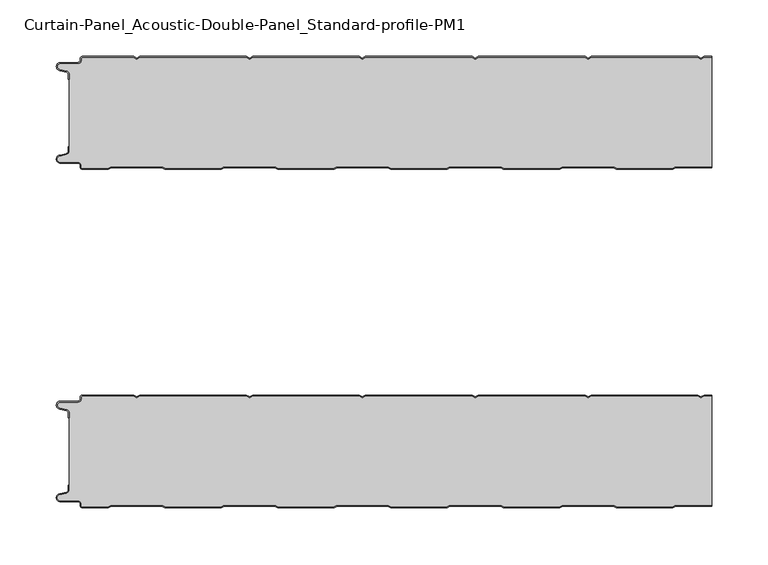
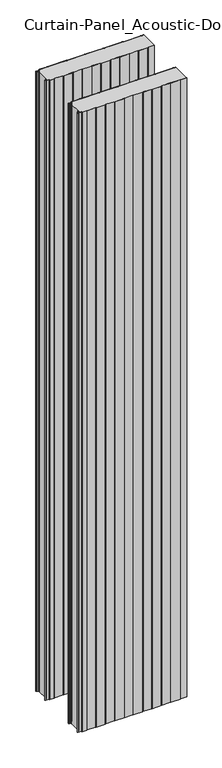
"""IFC4 building model written with IfcOpenShell, lengths in millimetres: plate geometry, Curtain-Panel_Acoustic-Double-Panel_Standard-profile-PM1 : ACH_Acoustic-Double-Panel_PM1_100-200-100."""

from ifc_helpers import new_model, si_unit, point, frame_2d, origin, origin_with_axes, place, context, project, spatial, polyline, circle_curve, trimmed, segment, composite_curve, outline, extrude, source, transform, mapped, element, save


def curtain_panel_acoustic_double_panel_standard_profile_pm1_802b12fa(model_context):
    return source(origin(), model_context, "Body", "SweptSolid", [
        extrude(outline(composite_curve([segment(trimmed(circle_curve(frame_2d((-287.0, -315.878557)), 2.0), [point((-285.0, -315.878557))], [point((-286.5500978, -313.9298169))], True, "CARTESIAN"), True, "CONTINUOUS"), segment(polyline([(-286.5500978, -313.9298169), (-292.7098239, -312.507732)]), True, "CONTINUOUS"), segment(trimmed(circle_curve(frame_2d((-291.9, -309.0)), 3.6), [point((-292.7098239, -312.507732))], [point((-291.9, -305.4))], False, "CARTESIAN"), True, "CONTINUOUS"), segment(polyline([(-291.9, -305.4), (-276.4, -305.4)]), True, "CONTINUOUS"), segment(trimmed(circle_curve(frame_2d((-276.4, -303.4)), 2.0), [point((-276.4, -305.4))], [point((-274.4, -303.4))], True, "CARTESIAN"), True, "CONTINUOUS"), segment(polyline([(-274.4, -303.4), (-274.4, -302.0)]), True, "CONTINUOUS"), segment(trimmed(circle_curve(frame_2d((-272.4, -302.0)), 2.0), [point((-274.4, -302.0))], [point((-272.4, -300.0))], False, "CARTESIAN"), True, "CONTINUOUS"), segment(polyline([(-272.4, -300.0), (-227.0999995, -300.0), (-224.4, -301.5588455), (-221.7000005, -300.0), (-127.0999995, -300.0), (-124.4, -301.5588455), (-121.7000005, -300.0), (-27.0999995, -300.0), (-24.4, -301.5588455), (-21.7000005, -300.0), (72.9000005, -300.0), (75.6, -301.5588455), (78.2999995, -300.0), (172.9000005, -300.0), (175.6, -301.5588455), (178.2999995, -300.0), (272.9000005, -300.0), (275.6, -301.5588455), (278.2999995, -300.0), (285.0, -300.0), (285.0, -300.8), (278.5143588, -300.8), (275.6, -302.482606), (272.6856412, -300.8), (178.5143588, -300.8), (175.6, -302.482606), (172.6856412, -300.8), (78.5143588, -300.8), (75.6, -302.482606), (72.6856412, -300.8), (-21.4856412, -300.8), (-24.4, -302.482606), (-27.3143588, -300.8), (-121.4856412, -300.8), (-124.4, -302.482606), (-127.3143588, -300.8), (-221.4856412, -300.8), (-224.4, -302.482606), (-227.3143588, -300.8), (-272.4, -300.8)]), True, "CONTINUOUS"), segment(trimmed(circle_curve(frame_2d((-272.4, -302.0)), 1.2), [point((-272.4, -300.8))], [point((-273.6, -302.0))], True, "CARTESIAN"), True, "CONTINUOUS"), segment(polyline([(-273.6, -302.0), (-273.6, -303.4)]), True, "CONTINUOUS"), segment(trimmed(circle_curve(frame_2d((-276.4, -303.4)), 2.8), [point((-273.6, -303.4))], [point((-276.4, -306.2))], False, "CARTESIAN"), True, "CONTINUOUS"), segment(polyline([(-276.4, -306.2), (-291.9, -306.2)]), True, "CONTINUOUS"), segment(trimmed(circle_curve(frame_2d((-291.9, -309.0)), 2.8), [point((-291.9, -306.2))], [point((-292.529863, -311.7282362))], True, "CARTESIAN"), True, "CONTINUOUS"), segment(polyline([(-292.529863, -311.7282362), (-286.370137, -313.150321)]), True, "CONTINUOUS"), segment(trimmed(circle_curve(frame_2d((-287.0, -315.878557)), 2.8), [point((-286.370137, -313.150321))], [point((-284.2, -315.878557))], False, "CARTESIAN"), True, "CONTINUOUS"), segment(polyline([(-284.2, -315.878557), (-284.2, -320.0), (-285.0, -320.0), (-285.0, -315.878557)]), True, "CONTINUOUS")], self_intersect=False)), origin_with_axes(), (0.0, 0.0, 1.0), 3500.0),
        extrude(outline(composite_curve([segment(polyline([(-284.2, -384.121443), (-284.2, -315.8785573)]), True, "CONTINUOUS"), segment(trimmed(circle_curve(frame_2d((-287.0, -315.8785573)), 2.8), [point((-284.2, -315.8785573))], [point((-286.370137, -313.1503212))], True, "CARTESIAN"), True, "CONTINUOUS"), segment(polyline([(-286.370137, -313.1503212), (-292.5298631, -311.7282362)]), True, "CONTINUOUS"), segment(trimmed(circle_curve(frame_2d((-291.9, -309.0)), 2.8), [point((-292.5298631, -311.7282362))], [point((-291.9, -306.2))], False, "CARTESIAN"), True, "CONTINUOUS"), segment(polyline([(-291.9, -306.2), (-276.4000001, -306.2)]), True, "CONTINUOUS"), segment(trimmed(circle_curve(frame_2d((-276.4000001, -303.4)), 2.8), [point((-276.4000001, -306.2))], [point((-273.6000001, -303.4))], True, "CARTESIAN"), True, "CONTINUOUS"), segment(polyline([(-273.6000001, -303.4), (-273.6000001, -302.0)]), True, "CONTINUOUS"), segment(trimmed(circle_curve(frame_2d((-272.4000001, -302.0)), 1.2), [point((-273.6000001, -302.0))], [point((-272.4000001, -300.8))], False, "CARTESIAN"), True, "CONTINUOUS"), segment(polyline([(-272.4000001, -300.8), (-227.3143589, -300.8), (-224.4000001, -302.482606), (-221.4856412, -300.8), (-127.3143589, -300.8), (-124.4000001, -302.482606), (-121.4856412, -300.8), (-27.3143589, -300.8), (-24.4000001, -302.482606), (-21.4856412, -300.8), (72.6856411, -300.8), (75.5999999, -302.482606), (78.5143588, -300.8), (172.6856411, -300.8), (175.5999999, -302.482606), (178.5143588, -300.8), (272.6856411, -300.8), (275.5999999, -302.482606), (278.5143588, -300.8), (285.0, -300.8), (285.0, -397.7), (252.9837184, -397.7), (250.3856408, -399.2), (200.8105122, -399.2), (198.2124346, -397.7), (152.9837184, -397.7), (150.3856408, -399.2), (100.8105122, -399.2), (98.2124346, -397.7), (52.9837184, -397.7), (50.3856408, -399.2), (0.8105122, -399.2), (-1.7875654, -397.7), (-47.0162816, -397.7), (-49.6143592, -399.2), (-99.1894878, -399.2), (-101.7875654, -397.7), (-147.0162816, -397.7), (-149.6143592, -399.2), (-199.1894878, -399.2), (-201.7875654, -397.7), (-247.0162816, -397.7), (-249.6143592, -399.2), (-272.4, -399.2)]), True, "CONTINUOUS"), segment(trimmed(circle_curve(frame_2d((-272.4, -398.0)), 1.2), [point((-272.4, -399.2))], [point((-273.6, -398.0))], False, "CARTESIAN"), True, "CONTINUOUS"), segment(polyline([(-273.6, -398.0), (-273.6, -396.5999998)]), True, "CONTINUOUS"), segment(trimmed(circle_curve(frame_2d((-276.4, -396.5999998)), 2.8), [point((-273.6, -396.5999998))], [point((-276.4, -393.7999998))], True, "CARTESIAN"), True, "CONTINUOUS"), segment(polyline([(-276.4, -393.7999998), (-291.9, -393.7999998)]), True, "CONTINUOUS"), segment(trimmed(circle_curve(frame_2d((-291.9, -391.0)), 2.7999998), [point((-291.9, -393.7999998))], [point((-292.529863, -388.271764))], False, "CARTESIAN"), True, "CONTINUOUS"), segment(polyline([(-292.529863, -388.271764), (-286.370137, -386.8496792)]), True, "CONTINUOUS"), segment(trimmed(circle_curve(frame_2d((-287.0, -384.121443)), 2.8), [point((-286.370137, -386.8496792))], [point((-284.2, -384.121443))], True, "CARTESIAN"), True, "CONTINUOUS")], self_intersect=False)), origin_with_axes(), (0.0, 0.0, 1.0), 3500.0),
        extrude(outline(composite_curve([segment(trimmed(circle_curve(frame_2d((-272.4, -398.0)), 2.0), [point((-272.4, -400.0))], [point((-274.4, -398.0))], False, "CARTESIAN"), True, "CONTINUOUS"), segment(polyline([(-274.4, -398.0), (-274.4, -396.6)]), True, "CONTINUOUS"), segment(trimmed(circle_curve(frame_2d((-276.4, -396.6)), 2.0), [point((-274.4, -396.6))], [point((-276.4, -394.6))], True, "CARTESIAN"), True, "CONTINUOUS"), segment(polyline([(-276.4, -394.6), (-291.9, -394.6)]), True, "CONTINUOUS"), segment(trimmed(circle_curve(frame_2d((-291.9, -391.0)), 3.6), [point((-291.9, -394.6))], [point((-292.7098239, -387.4922678))], False, "CARTESIAN"), True, "CONTINUOUS"), segment(polyline([(-292.7098239, -387.4922678), (-286.5500979, -386.070183)]), True, "CONTINUOUS"), segment(trimmed(circle_curve(frame_2d((-287.0, -384.121443)), 2.0), [point((-286.5500979, -386.070183))], [point((-285.0, -384.121443))], True, "CARTESIAN"), True, "CONTINUOUS"), segment(polyline([(-285.0, -384.121443), (-285.0, -380.0), (-284.2, -380.0), (-284.2, -384.121443)]), True, "CONTINUOUS"), segment(trimmed(circle_curve(frame_2d((-287.0, -384.121443)), 2.8), [point((-284.2, -384.121443))], [point((-286.370137, -386.8496792))], False, "CARTESIAN"), True, "CONTINUOUS"), segment(polyline([(-286.370137, -386.8496792), (-292.529863, -388.271764)]), True, "CONTINUOUS"), segment(trimmed(circle_curve(frame_2d((-291.9, -391.0)), 2.8), [point((-292.529863, -388.271764))], [point((-291.9, -393.8))], True, "CARTESIAN"), True, "CONTINUOUS"), segment(polyline([(-291.9, -393.8), (-276.4, -393.8)]), True, "CONTINUOUS"), segment(trimmed(circle_curve(frame_2d((-276.4, -396.6)), 2.8), [point((-276.4, -393.8))], [point((-273.6, -396.6))], False, "CARTESIAN"), True, "CONTINUOUS"), segment(polyline([(-273.6, -396.6), (-273.6, -398.0)]), True, "CONTINUOUS"), segment(trimmed(circle_curve(frame_2d((-272.4, -398.0)), 1.2), [point((-273.6, -398.0))], [point((-272.4, -399.2))], True, "CARTESIAN"), True, "CONTINUOUS"), segment(polyline([(-272.4, -399.2), (-249.6143592, -399.2), (-247.0162816, -397.7), (-201.7875654, -397.7), (-199.1894878, -399.2), (-149.6143592, -399.2), (-147.0162816, -397.7), (-101.7875654, -397.7), (-99.1894878, -399.2), (-49.6143592, -399.2), (-47.0162816, -397.7), (-1.7875654, -397.7), (0.8105122, -399.2), (50.3856408, -399.2), (52.9837184, -397.7), (98.2124346, -397.7), (100.8105122, -399.2), (150.3856408, -399.2), (152.9837184, -397.7), (198.2124346, -397.7), (200.8105122, -399.2), (250.3856408, -399.2), (252.9837184, -397.7), (285.0, -397.7), (285.0, -398.5), (253.1980777, -398.5), (250.6000001, -400.0), (200.5961529, -400.0), (197.9980753, -398.5), (153.1980777, -398.5), (150.6000001, -400.0), (100.5961529, -400.0), (97.9980753, -398.5), (53.1980777, -398.5), (50.6000001, -400.0), (0.5961529, -400.0), (-2.0019247, -398.5), (-46.8019223, -398.5), (-49.3999999, -400.0), (-99.4038471, -400.0), (-102.0019247, -398.5), (-146.8019223, -398.5), (-149.3999999, -400.0), (-199.4038471, -400.0), (-202.0019247, -398.5), (-246.8019223, -398.5), (-249.3999999, -400.0), (-272.4, -400.0)]), True, "CONTINUOUS")], self_intersect=False)), origin_with_axes(), (0.0, 0.0, 1.0), 3500.0),
        extrude(outline(composite_curve([segment(trimmed(circle_curve(frame_2d((-287.0, -15.878557)), 2.0), [point((-285.0, -15.878557))], [point((-286.5500978, -13.9298169))], True, "CARTESIAN"), True, "CONTINUOUS"), segment(polyline([(-286.5500978, -13.9298169), (-292.7098239, -12.507732)]), True, "CONTINUOUS"), segment(trimmed(circle_curve(frame_2d((-291.9, -9.0)), 3.6), [point((-292.7098239, -12.507732))], [point((-291.9, -5.4))], False, "CARTESIAN"), True, "CONTINUOUS"), segment(polyline([(-291.9, -5.4), (-276.4, -5.4)]), True, "CONTINUOUS"), segment(trimmed(circle_curve(frame_2d((-276.4, -3.4)), 2.0), [point((-276.4, -5.4))], [point((-274.4, -3.4))], True, "CARTESIAN"), True, "CONTINUOUS"), segment(polyline([(-274.4, -3.4), (-274.4, -2.0)]), True, "CONTINUOUS"), segment(trimmed(circle_curve(frame_2d((-272.4, -2.0)), 2.0), [point((-274.4, -2.0))], [point((-272.4, 0.0))], False, "CARTESIAN"), True, "CONTINUOUS"), segment(polyline([(-272.4, 0.0), (-227.0999995, 0.0), (-224.4, -1.5588455), (-221.7000005, 0.0), (-127.0999995, 0.0), (-124.4, -1.5588455), (-121.7000005, 0.0), (-27.0999995, 0.0), (-24.4, -1.5588455), (-21.7000005, 0.0), (72.9000005, 0.0), (75.6, -1.5588455), (78.2999995, 0.0), (172.9000005, 0.0), (175.6, -1.5588455), (178.2999995, 0.0), (272.9000005, 0.0), (275.6, -1.5588455), (278.2999995, 0.0), (285.0, 0.0), (285.0, -0.8), (278.5143588, -0.8), (275.6, -2.482606), (272.6856412, -0.8), (178.5143588, -0.8), (175.6, -2.482606), (172.6856412, -0.8), (78.5143588, -0.8), (75.6, -2.482606), (72.6856412, -0.8), (-21.4856412, -0.8), (-24.4, -2.482606), (-27.3143588, -0.8), (-121.4856412, -0.8), (-124.4, -2.482606), (-127.3143588, -0.8), (-221.4856412, -0.8), (-224.4, -2.482606), (-227.3143588, -0.8), (-272.4, -0.8)]), True, "CONTINUOUS"), segment(trimmed(circle_curve(frame_2d((-272.4, -2.0)), 1.2), [point((-272.4, -0.8))], [point((-273.6, -2.0))], True, "CARTESIAN"), True, "CONTINUOUS"), segment(polyline([(-273.6, -2.0), (-273.6, -3.4)]), True, "CONTINUOUS"), segment(trimmed(circle_curve(frame_2d((-276.4, -3.4)), 2.8), [point((-273.6, -3.4))], [point((-276.4, -6.2))], False, "CARTESIAN"), True, "CONTINUOUS"), segment(polyline([(-276.4, -6.2), (-291.9, -6.2)]), True, "CONTINUOUS"), segment(trimmed(circle_curve(frame_2d((-291.9, -9.0)), 2.8), [point((-291.9, -6.2))], [point((-292.529863, -11.7282362))], True, "CARTESIAN"), True, "CONTINUOUS"), segment(polyline([(-292.529863, -11.7282362), (-286.370137, -13.150321)]), True, "CONTINUOUS"), segment(trimmed(circle_curve(frame_2d((-287.0, -15.878557)), 2.8), [point((-286.370137, -13.150321))], [point((-284.2, -15.878557))], False, "CARTESIAN"), True, "CONTINUOUS"), segment(polyline([(-284.2, -15.878557), (-284.2, -20.0), (-285.0, -20.0), (-285.0, -15.878557)]), True, "CONTINUOUS")], self_intersect=False)), origin_with_axes(), (0.0, 0.0, 1.0), 3500.0),
        extrude(outline(composite_curve([segment(polyline([(-284.2, -84.121443), (-284.2, -15.8785573)]), True, "CONTINUOUS"), segment(trimmed(circle_curve(frame_2d((-287.0, -15.8785573)), 2.8), [point((-284.2, -15.8785573))], [point((-286.370137, -13.1503212))], True, "CARTESIAN"), True, "CONTINUOUS"), segment(polyline([(-286.370137, -13.1503212), (-292.5298631, -11.7282362)]), True, "CONTINUOUS"), segment(trimmed(circle_curve(frame_2d((-291.9, -9.0)), 2.8), [point((-292.5298631, -11.7282362))], [point((-291.9, -6.2))], False, "CARTESIAN"), True, "CONTINUOUS"), segment(polyline([(-291.9, -6.2), (-276.4000001, -6.2)]), True, "CONTINUOUS"), segment(trimmed(circle_curve(frame_2d((-276.4000001, -3.4)), 2.8), [point((-276.4000001, -6.2))], [point((-273.6000001, -3.4))], True, "CARTESIAN"), True, "CONTINUOUS"), segment(polyline([(-273.6000001, -3.4), (-273.6000001, -2.0)]), True, "CONTINUOUS"), segment(trimmed(circle_curve(frame_2d((-272.4000001, -2.0)), 1.2), [point((-273.6000001, -2.0))], [point((-272.4000001, -0.8))], False, "CARTESIAN"), True, "CONTINUOUS"), segment(polyline([(-272.4000001, -0.8), (-227.3143589, -0.8), (-224.4000001, -2.482606), (-221.4856412, -0.8), (-127.3143589, -0.8), (-124.4000001, -2.482606), (-121.4856412, -0.8), (-27.3143589, -0.8), (-24.4000001, -2.482606), (-21.4856412, -0.8), (72.6856411, -0.8), (75.5999999, -2.482606), (78.5143588, -0.8), (172.6856411, -0.8), (175.5999999, -2.482606), (178.5143588, -0.8), (272.6856411, -0.8), (275.5999999, -2.482606), (278.5143588, -0.8), (285.0, -0.8), (285.0, -97.7), (252.9837184, -97.7), (250.3856408, -99.2), (200.8105122, -99.2), (198.2124346, -97.7), (152.9837184, -97.7), (150.3856408, -99.2), (100.8105122, -99.2), (98.2124346, -97.7), (52.9837184, -97.7), (50.3856408, -99.2), (0.8105122, -99.2), (-1.7875654, -97.7), (-47.0162816, -97.7), (-49.6143592, -99.2), (-99.1894878, -99.2), (-101.7875654, -97.7), (-147.0162816, -97.7), (-149.6143592, -99.2), (-199.1894878, -99.2), (-201.7875654, -97.7), (-247.0162816, -97.7), (-249.6143592, -99.2), (-272.4, -99.2)]), True, "CONTINUOUS"), segment(trimmed(circle_curve(frame_2d((-272.4, -98.0)), 1.2), [point((-272.4, -99.2))], [point((-273.6, -98.0))], False, "CARTESIAN"), True, "CONTINUOUS"), segment(polyline([(-273.6, -98.0), (-273.6, -96.5999998)]), True, "CONTINUOUS"), segment(trimmed(circle_curve(frame_2d((-276.4, -96.5999998)), 2.8), [point((-273.6, -96.5999998))], [point((-276.4, -93.7999998))], True, "CARTESIAN"), True, "CONTINUOUS"), segment(polyline([(-276.4, -93.7999998), (-291.9, -93.7999998)]), True, "CONTINUOUS"), segment(trimmed(circle_curve(frame_2d((-291.9, -91.0)), 2.7999998), [point((-291.9, -93.7999998))], [point((-292.529863, -88.271764))], False, "CARTESIAN"), True, "CONTINUOUS"), segment(polyline([(-292.529863, -88.271764), (-286.370137, -86.8496792)]), True, "CONTINUOUS"), segment(trimmed(circle_curve(frame_2d((-287.0, -84.121443)), 2.8), [point((-286.370137, -86.8496792))], [point((-284.2, -84.121443))], True, "CARTESIAN"), True, "CONTINUOUS")], self_intersect=False)), origin_with_axes(), (0.0, 0.0, 1.0), 3500.0),
        extrude(outline(composite_curve([segment(trimmed(circle_curve(frame_2d((-272.4, -98.0)), 2.0), [point((-272.4, -100.0))], [point((-274.4, -98.0))], False, "CARTESIAN"), True, "CONTINUOUS"), segment(polyline([(-274.4, -98.0), (-274.4, -96.6)]), True, "CONTINUOUS"), segment(trimmed(circle_curve(frame_2d((-276.4, -96.6)), 2.0), [point((-274.4, -96.6))], [point((-276.4, -94.6))], True, "CARTESIAN"), True, "CONTINUOUS"), segment(polyline([(-276.4, -94.6), (-291.9, -94.6)]), True, "CONTINUOUS"), segment(trimmed(circle_curve(frame_2d((-291.9, -91.0)), 3.6), [point((-291.9, -94.6))], [point((-292.7098239, -87.4922678))], False, "CARTESIAN"), True, "CONTINUOUS"), segment(polyline([(-292.7098239, -87.4922678), (-286.5500979, -86.070183)]), True, "CONTINUOUS"), segment(trimmed(circle_curve(frame_2d((-287.0, -84.121443)), 2.0), [point((-286.5500979, -86.070183))], [point((-285.0, -84.121443))], True, "CARTESIAN"), True, "CONTINUOUS"), segment(polyline([(-285.0, -84.121443), (-285.0, -80.0), (-284.2, -80.0), (-284.2, -84.121443)]), True, "CONTINUOUS"), segment(trimmed(circle_curve(frame_2d((-287.0, -84.121443)), 2.8), [point((-284.2, -84.121443))], [point((-286.370137, -86.8496792))], False, "CARTESIAN"), True, "CONTINUOUS"), segment(polyline([(-286.370137, -86.8496792), (-292.529863, -88.271764)]), True, "CONTINUOUS"), segment(trimmed(circle_curve(frame_2d((-291.9, -91.0)), 2.8), [point((-292.529863, -88.271764))], [point((-291.9, -93.8))], True, "CARTESIAN"), True, "CONTINUOUS"), segment(polyline([(-291.9, -93.8), (-276.4, -93.8)]), True, "CONTINUOUS"), segment(trimmed(circle_curve(frame_2d((-276.4, -96.6)), 2.8), [point((-276.4, -93.8))], [point((-273.6, -96.6))], False, "CARTESIAN"), True, "CONTINUOUS"), segment(polyline([(-273.6, -96.6), (-273.6, -98.0)]), True, "CONTINUOUS"), segment(trimmed(circle_curve(frame_2d((-272.4, -98.0)), 1.2), [point((-273.6, -98.0))], [point((-272.4, -99.2))], True, "CARTESIAN"), True, "CONTINUOUS"), segment(polyline([(-272.4, -99.2), (-249.6143592, -99.2), (-247.0162816, -97.7), (-201.7875654, -97.7), (-199.1894878, -99.2), (-149.6143592, -99.2), (-147.0162816, -97.7), (-101.7875654, -97.7), (-99.1894878, -99.2), (-49.6143592, -99.2), (-47.0162816, -97.7), (-1.7875654, -97.7), (0.8105122, -99.2), (50.3856408, -99.2), (52.9837184, -97.7), (98.2124346, -97.7), (100.8105122, -99.2), (150.3856408, -99.2), (152.9837184, -97.7), (198.2124346, -97.7), (200.8105122, -99.2), (250.3856408, -99.2), (252.9837184, -97.7), (285.0, -97.7), (285.0, -98.5), (253.1980777, -98.5), (250.6000001, -100.0), (200.5961529, -100.0), (197.9980753, -98.5), (153.1980777, -98.5), (150.6000001, -100.0), (100.5961529, -100.0), (97.9980753, -98.5), (53.1980777, -98.5), (50.6000001, -100.0), (0.5961529, -100.0), (-2.0019247, -98.5), (-46.8019223, -98.5), (-49.3999999, -100.0), (-99.4038471, -100.0), (-102.0019247, -98.5), (-146.8019223, -98.5), (-149.3999999, -100.0), (-199.4038471, -100.0), (-202.0019247, -98.5), (-246.8019223, -98.5), (-249.3999999, -100.0), (-272.4, -100.0)]), True, "CONTINUOUS")], self_intersect=False)), origin_with_axes(), (0.0, 0.0, 1.0), 3500.0),
    ])


if __name__ == "__main__":
    model = new_model("IFC4")
    model_context = context("Model", 3, world=origin())
    ifc_project = project(units=[si_unit("LENGTHUNIT", "METRE", prefix="MILLI")], contexts=[model_context])
    site = spatial("IfcSite", under=ifc_project)
    building = spatial("IfcBuilding", under=site)
    placement = place(None, origin())
    curtain_panel_acoustic_double_panel_standard_profile_pm1_shape = curtain_panel_acoustic_double_panel_standard_profile_pm1_802b12fa(model_context)
    element("IfcPlate", 1, ObjectType="Curtain-Panel_Acoustic-Double-Panel_Standard-profile-PM1 : ACH_Acoustic-Double-Panel_PM1_100-200-100", at=placement, inside=building, context=model_context, shape_type="MappedRepresentation", body=[
        mapped(curtain_panel_acoustic_double_panel_standard_profile_pm1_shape, transform((0.0, 0.0, 0.0), x_axis=(1.0, 0.0, 0.0), y_axis=(0.0, 1.0, 0.0), z_axis=(0.0, 0.0, 1.0))),
    ])
    save(model, "model.ifc")
